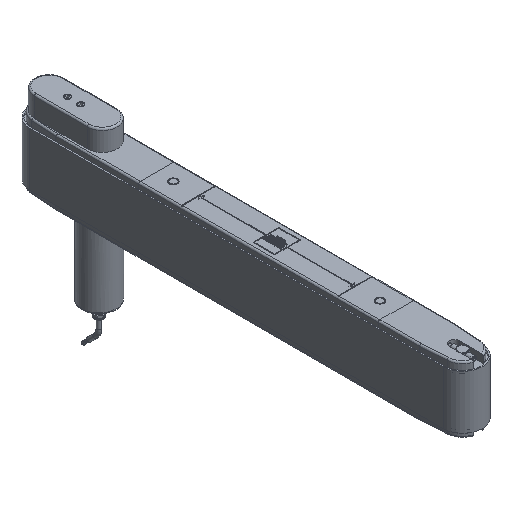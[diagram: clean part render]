
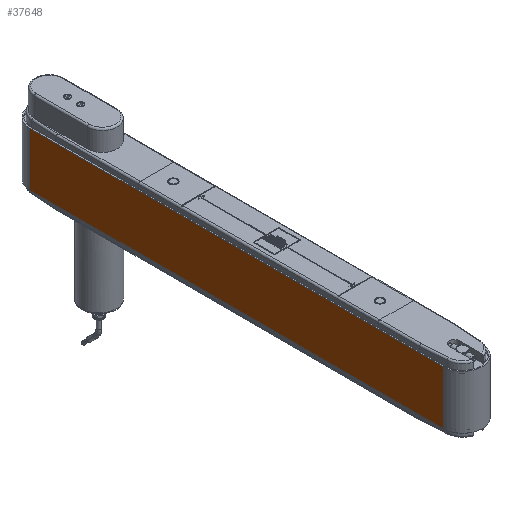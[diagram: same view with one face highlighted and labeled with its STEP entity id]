
A CAD part, isometric view. The second image highlights one B-rep face of the part: STEP entity #37648.
In plain terms, the highlighted planar face has unit normal (-1, 0, 0).
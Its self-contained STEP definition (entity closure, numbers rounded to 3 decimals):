
#4680=FACE_OUTER_BOUND('',#6780,.T.);
#6780=EDGE_LOOP('',(#31044,#31045,#31046,#31047));
#10031=LINE('',#65960,#13334);
#10032=LINE('',#65965,#13335);
#10034=LINE('',#65969,#13337);
#10035=LINE('',#65970,#13338);
#13334=VECTOR('',#44176,10.);
#13335=VECTOR('',#44181,10.);
#13337=VECTOR('',#44185,10.);
#13338=VECTOR('',#44186,10.);
#16660=VERTEX_POINT('',#65954);
#16662=VERTEX_POINT('',#65958);
#16664=VERTEX_POINT('',#65963);
#16665=VERTEX_POINT('',#65968);
#21573=EDGE_CURVE('',#16660,#16662,#10031,.T.);
#21575=EDGE_CURVE('',#16664,#16662,#10032,.T.);
#21577=EDGE_CURVE('',#16664,#16665,#10034,.T.);
#21578=EDGE_CURVE('',#16665,#16660,#10035,.T.);
#31044=ORIENTED_EDGE('',*,*,#21577,.T.);
#31045=ORIENTED_EDGE('',*,*,#21578,.T.);
#31046=ORIENTED_EDGE('',*,*,#21573,.T.);
#31047=ORIENTED_EDGE('',*,*,#21575,.F.);
#33975=PLANE('',#38969);
#37648=ADVANCED_FACE('',(#4680),#33975,.T.);
#38969=AXIS2_PLACEMENT_3D('',#65967,#44183,#44184);
#44176=DIRECTION('',(0.,1.,0.));
#44181=DIRECTION('',(0.,0.,1.));
#44183=DIRECTION('center_axis',(-1.,0.,0.));
#44184=DIRECTION('ref_axis',(0.,0.,
1.));
#44185=DIRECTION('',(0.,-1.,0.));
#44186=DIRECTION('',(0.,0.,1.));
#65954=CARTESIAN_POINT('',(-23.5,-370.,32.5));
#65958=CARTESIAN_POINT('',(-23.5,130.,32.5));
#65960=CARTESIAN_POINT('',(-23.5,130.,32.5));
#65963=CARTESIAN_POINT('',(-23.5,130.,-32.5));
#65965=CARTESIAN_POINT('',(-23.5,130.,0.));
#65967=CARTESIAN_POINT('Origin',(-23.5,130.,0.));
#65968=CARTESIAN_POINT('',(-23.5,-370.,-32.5));
#65969=CARTESIAN_POINT('',(-23.5,130.,-32.5));
#65970=CARTESIAN_POINT('',(-23.5,-370.,0.));
